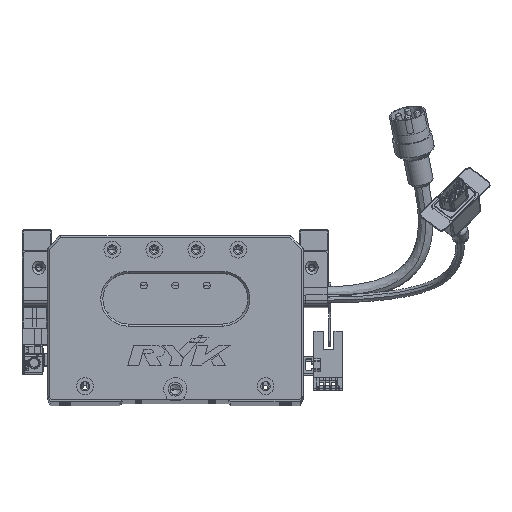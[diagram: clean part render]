
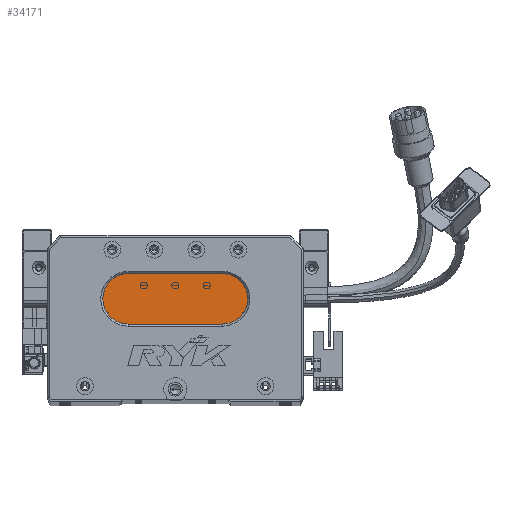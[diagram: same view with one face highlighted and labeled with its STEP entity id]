
A CAD part, top view. The second image highlights one B-rep face of the part: STEP entity #34171.
In plain terms, the highlighted planar face has unit normal (0, 0, 1) as drawn and (0, 0, -1) by its records, which use the part's own axes.
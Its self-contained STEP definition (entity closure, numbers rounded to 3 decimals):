
#522 = DIRECTION ( 'NONE',  ( 0., 0., -1. ) ) ;
#1242 = CARTESIAN_POINT ( 'NONE',  ( 83.5, 48., 13. ) ) ;
#1734 = DIRECTION ( 'NONE',  ( -1., 0., 0. ) ) ;
#1919 = LINE ( 'NONE', #55790, #61580 ) ;
#3857 = ORIENTED_EDGE ( 'NONE', *, *, #29788, .T. ) ;
#5359 = DIRECTION ( 'NONE',  ( -1., 0., 0. ) ) ;
#6215 = DIRECTION ( 'NONE',  ( 0., 0., -1. ) ) ;
#6906 = VERTEX_POINT ( 'NONE', #80461 ) ;
#7032 = CIRCLE ( 'NONE', #47814, 12. ) ;
#8292 = ORIENTED_EDGE ( 'NONE', *, *, #27624, .T. ) ;
#10421 = AXIS2_PLACEMENT_3D ( 'NONE', #71535, #23014, #44743 ) ;
#13471 = ORIENTED_EDGE ( 'NONE', *, *, #23629, .T. ) ;
#17001 = EDGE_CURVE ( 'NONE', #21278, #23376, #34425, .T. ) ;
#19299 = ORIENTED_EDGE ( 'NONE', *, *, #17001, .T. ) ;
#21278 = VERTEX_POINT ( 'NONE', #78495 ) ;
#23014 = DIRECTION ( 'NONE',  ( 0., 0., -1. ) ) ;
#23376 = VERTEX_POINT ( 'NONE', #53732 ) ;
#23629 = EDGE_CURVE ( 'NONE', #45326, #21278, #67020, .T. ) ;
#27499 = FACE_OUTER_BOUND ( 'NONE', #29475, .T. ) ;
#27624 = EDGE_CURVE ( 'NONE', #23376, #6906, #7032, .T. ) ;
#29475 = EDGE_LOOP ( 'NONE', ( #13471, #19299, #8292, #3857, #42058 ) ) ;
#29788 = EDGE_CURVE ( 'NONE', #6906, #61907, #54768, .T. ) ;
#34171 = ADVANCED_FACE ( 'NONE', ( #27499 ), #48953, .T. ) ;
#34425 = LINE ( 'NONE', #55959, #37600 ) ;
#35707 = EDGE_CURVE ( 'NONE', #61907, #45326, #1919, .T. ) ;
#36435 = DIRECTION ( 'NONE',  ( 1., 0., 0. ) ) ;
#37600 = VECTOR ( 'NONE', #1734, 1000. ) ;
#39635 = CARTESIAN_POINT ( 'NONE',  ( 38.5, 48., 13. ) ) ;
#40505 = CARTESIAN_POINT ( 'NONE',  ( 38.5, 48., 13. ) ) ;
#42058 = ORIENTED_EDGE ( 'NONE', *, *, #35707, .T. ) ;
#44743 = DIRECTION ( 'NONE',  ( -1., 0., 0. ) ) ;
#45326 = VERTEX_POINT ( 'NONE', #50419 ) ;
#47814 = AXIS2_PLACEMENT_3D ( 'NONE', #40505, #522, #82441 ) ;
#48198 = AXIS2_PLACEMENT_3D ( 'NONE', #1242, #55778, #55194 ) ;
#48953 = PLANE ( 'NONE',  #48198 ) ;
#50419 = CARTESIAN_POINT ( 'NONE',  ( 83.5, 60., 13. ) ) ;
#53732 = CARTESIAN_POINT ( 'NONE',  ( 38.5, 36., 13. ) ) ;
#54768 = CIRCLE ( 'NONE', #65636, 12. ) ;
#55194 = DIRECTION ( 'NONE',  ( -1., 0., 0. ) ) ;
#55778 = DIRECTION ( 'NONE',  ( 0., 0., -1. ) ) ;
#55790 = CARTESIAN_POINT ( 'NONE',  ( 83.5, 60., 13. ) ) ;
#55959 = CARTESIAN_POINT ( 'NONE',  ( 83.5, 36., 13. ) ) ;
#61580 = VECTOR ( 'NONE', #36435, 1000. ) ;
#61907 = VERTEX_POINT ( 'NONE', #78756 ) ;
#65636 = AXIS2_PLACEMENT_3D ( 'NONE', #39635, #6215, #5359 ) ;
#67020 = CIRCLE ( 'NONE', #10421, 12. ) ;
#71535 = CARTESIAN_POINT ( 'NONE',  ( 83.5, 48., 13. ) ) ;
#78495 = CARTESIAN_POINT ( 'NONE',  ( 83.5, 36., 13. ) ) ;
#78756 = CARTESIAN_POINT ( 'NONE',  ( 38.5, 60., 13. ) ) ;
#80461 = CARTESIAN_POINT ( 'NONE',  ( 26.5, 48., 13. ) ) ;
#82441 = DIRECTION ( 'NONE',  ( -1., 0., 0. ) ) ;
